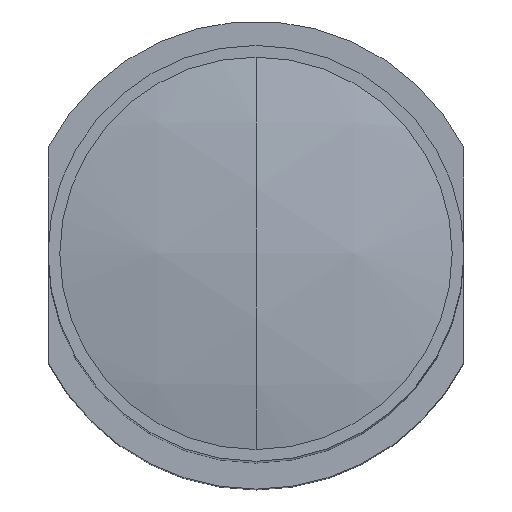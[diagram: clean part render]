
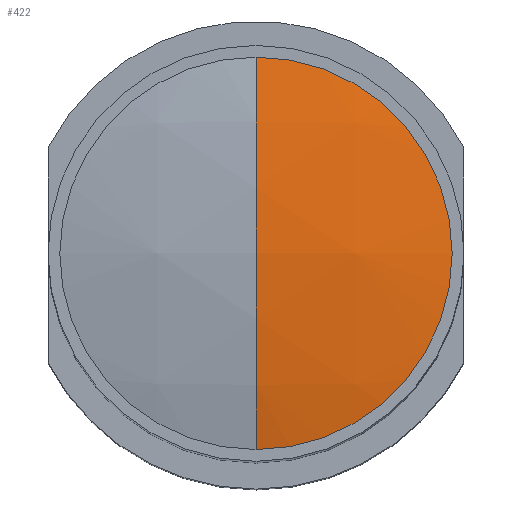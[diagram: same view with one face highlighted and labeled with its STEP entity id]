
A CAD part, top view. The second image highlights one B-rep face of the part: STEP entity #422.
In plain terms, the highlighted spherical face has radius 9 mm.
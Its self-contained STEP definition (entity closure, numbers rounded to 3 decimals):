
#147 = CARTESIAN_POINT ( 'NONE',  ( 0., 15., 0. ) ) ;
#148 = DIRECTION ( 'NONE',  ( 0., 0., 1. ) ) ;
#149 = DIRECTION ( 'NONE',  ( -1., 0., 0. ) ) ;
#150 = CARTESIAN_POINT ( 'NONE',  ( 0., 6., 0. ) ) ;
#151 = AXIS2_PLACEMENT_3D ( 'NONE', #150, #149, #148 ) ;
#152 = CIRCLE ( 'NONE', #151, 9. ) ;
#153 = CARTESIAN_POINT ( 'NONE',  ( 0., 14.8, 1.887 ) ) ;
#154 = CARTESIAN_POINT ( 'NONE',  ( 0., 14.8, -1.887 ) ) ;
#169 = DIRECTION ( 'NONE',  ( 0., 0., 1. ) ) ;
#170 = DIRECTION ( 'NONE',  ( 0., 1., 0. ) ) ;
#171 = AXIS2_PLACEMENT_3D ( 'NONE', #177, #170, #169 ) ;
#172 = CIRCLE ( 'NONE', #171, 1.887 ) ;
#173 = DIRECTION ( 'NONE',  ( 0., 0., -1. ) ) ;
#174 = DIRECTION ( 'NONE',  ( -1., 0., 0. ) ) ;
#175 = CARTESIAN_POINT ( 'NONE',  ( 0., 6., 0. ) ) ;
#176 = AXIS2_PLACEMENT_3D ( 'NONE', #175, #174, #173 ) ;
#177 = CARTESIAN_POINT ( 'NONE',  ( 0., 14.8, 0. ) ) ;
#178 = SPHERICAL_SURFACE ( 'NONE', #176, 9. ) ;
#179 = FACE_OUTER_BOUND ( 'NONE', #431, .T. ) ;
#209 = DIRECTION ( 'NONE',  ( 0., 0., -1. ) ) ;
#210 = DIRECTION ( 'NONE',  ( 1., 0., 0. ) ) ;
#211 = CARTESIAN_POINT ( 'NONE',  ( 0., 6., 0. ) ) ;
#212 = AXIS2_PLACEMENT_3D ( 'NONE', #211, #210, #209 ) ;
#213 = CIRCLE ( 'NONE', #212, 9. ) ;
#415 = EDGE_CURVE ( 'NONE', #425, #429, #213, .T. ) ;
#422 = ADVANCED_FACE ( 'NONE', ( #179 ), #178, .T. ) ;
#423 = ORIENTED_EDGE ( 'NONE', *, *, #424, .T. ) ;
#424 = EDGE_CURVE ( 'NONE', #425, #426, #172, .T. ) ;
#425 = VERTEX_POINT ( 'NONE', #154 ) ;
#426 = VERTEX_POINT ( 'NONE', #153 ) ;
#427 = ORIENTED_EDGE ( 'NONE', *, *, #428, .T. ) ;
#428 = EDGE_CURVE ( 'NONE', #426, #429, #152, .T. ) ;
#429 = VERTEX_POINT ( 'NONE', #147 ) ;
#431 = EDGE_LOOP ( 'NONE', ( #423, #427, #447 ) ) ;
#447 = ORIENTED_EDGE ( 'NONE', *, *, #415, .F. ) ;
